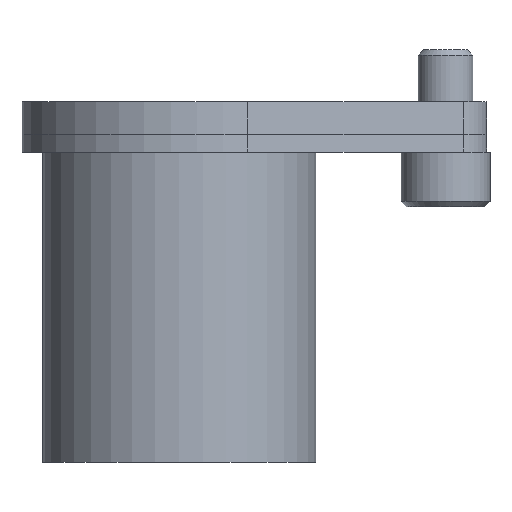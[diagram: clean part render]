
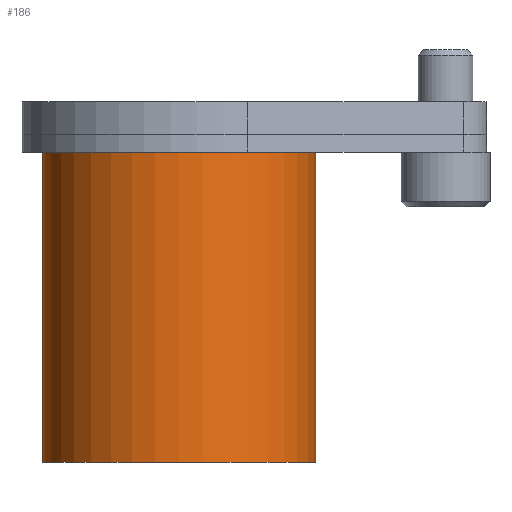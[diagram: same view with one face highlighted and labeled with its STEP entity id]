
A CAD part, front view. The second image highlights one B-rep face of the part: STEP entity #186.
In plain terms, the highlighted cylindrical face has radius 20 mm (diameter 40 mm), a partial arc.
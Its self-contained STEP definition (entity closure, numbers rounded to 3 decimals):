
#186=ADVANCED_FACE('',(#251),#221,.T.);
#221=CYLINDRICAL_SURFACE('',#1031,20.);
#251=FACE_OUTER_BOUND('',#309,.T.);
#309=EDGE_LOOP('',(#605,#606,#607,#608));
#365=LINE('',#1512,#425);
#366=LINE('',#1516,#426);
#425=VECTOR('',#1251,1.);
#426=VECTOR('',#1254,1.);
#605=ORIENTED_EDGE('',*,*,#851,.T.);
#606=ORIENTED_EDGE('',*,*,#852,.F.);
#607=ORIENTED_EDGE('',*,*,#853,.F.);
#608=ORIENTED_EDGE('',*,*,#848,.T.);
#745=VERTEX_POINT('',#1505);
#746=VERTEX_POINT('',#1507);
#747=VERTEX_POINT('',#1513);
#748=VERTEX_POINT('',#1515);
#848=EDGE_CURVE('',#746,#745,#937,.T.);
#851=EDGE_CURVE('',#745,#747,#365,.T.);
#852=EDGE_CURVE('',#748,#747,#939,.T.);
#853=EDGE_CURVE('',#746,#748,#366,.T.);
#937=CIRCLE('',#1026,20.);
#939=CIRCLE('',#1030,20.);
#1026=AXIS2_PLACEMENT_3D('',#1506,#1242,#1243);
#1030=AXIS2_PLACEMENT_3D('',#1514,#1252,#1253);
#1031=AXIS2_PLACEMENT_3D('',#1517,#1255,#1256);
#1242=DIRECTION('',(0.,0.,-1.));
#1243=DIRECTION('',(0.,1.,0.));
#1251=DIRECTION('',(0.,0.,-1.));
#1252=DIRECTION('',(0.,0.,-1.));
#1253=DIRECTION('',(0.,1.,0.));
#1254=DIRECTION('',(0.,0.,-1.));
#1255=DIRECTION('',(0.,0.,-1.));
#1256=DIRECTION('',(0.,-1.,0.));
#1505=CARTESIAN_POINT('',(-20.,0.,-7.4));
#1506=CARTESIAN_POINT('',(0.,0.,-7.4));
#1507=CARTESIAN_POINT('',(20.,0.,-7.4));
#1512=CARTESIAN_POINT('',(-20.,0.,-7.4));
#1513=CARTESIAN_POINT('',(-20.,0.,-52.8));
#1514=CARTESIAN_POINT('',(0.,0.,-52.8));
#1515=CARTESIAN_POINT('',(20.,0.,-52.8));
#1516=CARTESIAN_POINT('',(20.,0.,-7.4));
#1517=CARTESIAN_POINT('',(0.,0.,-7.4));
